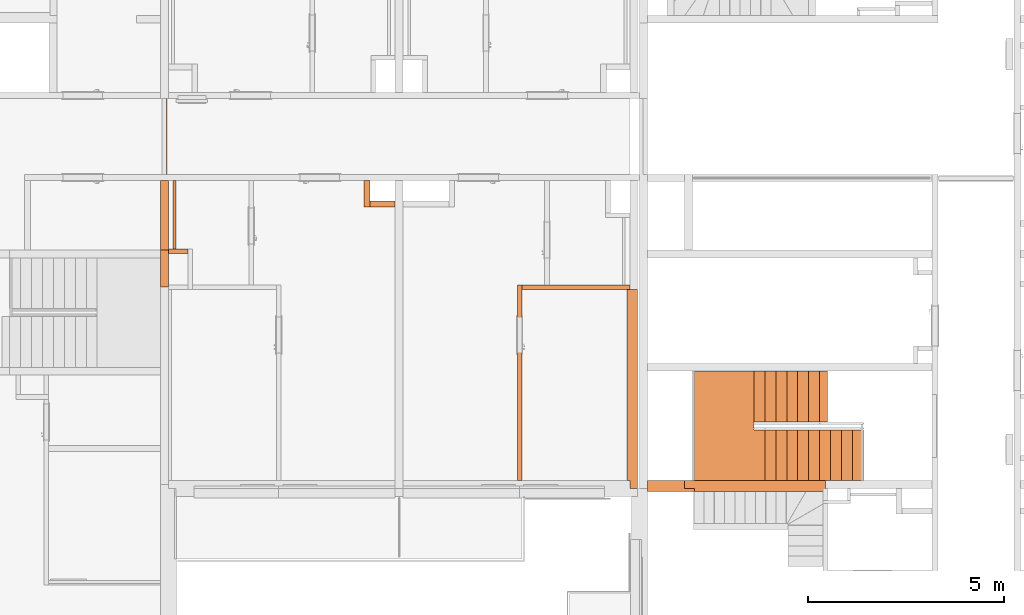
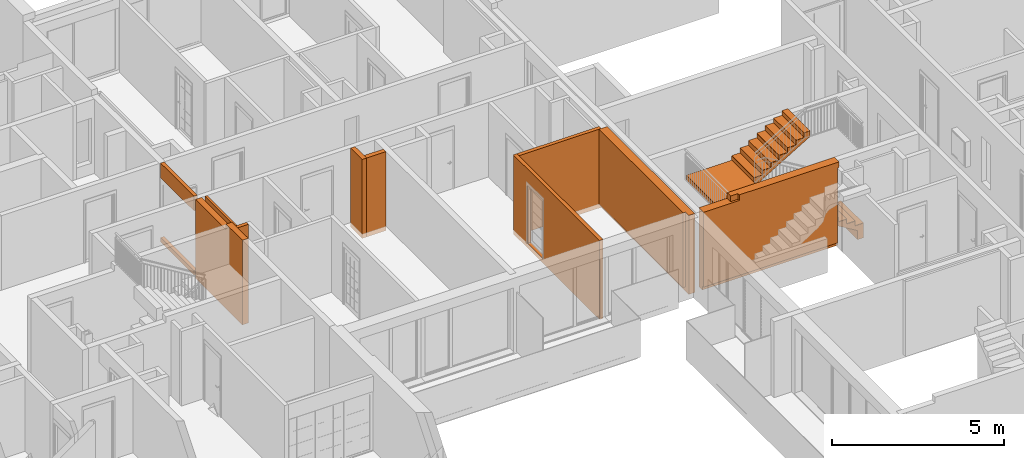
# One storey, part 54 of 61: 11 proxies, 2 openings.
"""IFC2X3 building model written with IfcOpenShell, lengths in millimetres."""

from ifc_helpers import new_model, entity, si_unit, converted_unit, derived_unit, money_unit, direction, frame, origin_with_axes, origin_2d_with_axis, place, context, subcontext, project, spatial, rectangle, extrude, faceted_brep, material, material_list, type_object, element, save


model = new_model("IFC2X3")

# Units and contexts
model_context = context("Model", 3, precision=0.01, world=origin_with_axes(), true_north=direction((0.34421633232, 0.938890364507)))
body_context = subcontext(model_context, "Body", "Model", "MODEL_VIEW")
ifc_project = project(units=[si_unit("LENGTHUNIT", "METRE", prefix="MILLI"), si_unit("AREAUNIT", "SQUARE_METRE"), si_unit("VOLUMEUNIT", "CUBIC_METRE"), converted_unit("PLANEANGLEUNIT", "DEGREE", entity("IfcPlaneAngleMeasure", 0.0174532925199), si_unit("PLANEANGLEUNIT", "RADIAN"), dimensions=[0, 0, 0, 0, 0, 0, 0]), si_unit("SOLIDANGLEUNIT", "STERADIAN"), money_unit("USD"), converted_unit("TIMEUNIT", "Year", entity("IfcTimeMeasure", 31556926.0), si_unit("TIMEUNIT", "SECOND"), dimensions=[0, 0, 1, 0, 0, 0, 0]), si_unit("MASSUNIT", "GRAM", prefix="KILO"), si_unit("THERMODYNAMICTEMPERATUREUNIT", "DEGREE_CELSIUS"), si_unit("LUMINOUSINTENSITYUNIT", "LUMEN"), si_unit("ENERGYUNIT", "JOULE", prefix="MEGA"), derived_unit("THERMALCONDUCTANCEUNIT", [(si_unit("POWERUNIT", "WATT"), 1), (si_unit("LENGTHUNIT", "METRE"), -1), (si_unit("THERMODYNAMICTEMPERATUREUNIT", "KELVIN"), -1)]), derived_unit("SPECIFICHEATCAPACITYUNIT", [(si_unit("ENERGYUNIT", "JOULE"), 1), (si_unit("MASSUNIT", "GRAM", prefix="KILO"), -1), (si_unit("THERMODYNAMICTEMPERATUREUNIT", "KELVIN"), -1)]), derived_unit("MASSDENSITYUNIT", [(si_unit("MASSUNIT", "GRAM", prefix="KILO"), 1), (si_unit("VOLUMEUNIT", "CUBIC_METRE"), -1)])], contexts=[model_context])

# Site, building, storey
site_placement = place(None, origin_with_axes())
site = spatial("IfcSite", under=ifc_project, at=site_placement, Name="USTRONIE MORSKIE", CompositionType="ELEMENT")
building_placement = place(site_placement, origin_with_axes())
building = spatial("IfcBuilding", under=site, at=building_placement, Name="Budynek", CompositionType="ELEMENT")
storey_placement = place(building_placement, frame((0.0, 0.0, 13000.0), z_axis=(0.0, 0.0, 1.0), x_axis=(1.0, 0.0, 0.0)))
storey = spatial("IfcBuildingStorey", under=building, at=storey_placement, Name="PIĘTRO 4", CompositionType="ELEMENT", Elevation=13000.0)

# Proxy
ifc_material_1 = material(Name="Bloczki silikatowe")
building_element_proxy_type_1 = type_object("IfcBuildingElementProxyType", Name="Bloczki silikatowe 120", PredefinedType="NOTDEFINED")
proxy_1_placement = place(storey_placement, frame((408317.920919, 731951.199132, -160.0), z_axis=(0.0, 0.0, 1.0), x_axis=(-1.0, 0.0, 0.0)))
element("IfcBuildingElementProxy", 1, at=proxy_1_placement, inside=storey, type_object=building_element_proxy_type_1, material=ifc_material_1, Name="SW-04", context=body_context, shape_type="Brep", body=[
    faceted_brep([(2860.01935038, 59.9999999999, 0.0), (2860.01935038, -59.9999999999, 0.0), (99.9999999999, -59.9999999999, 0.0), (99.9999999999, 59.9999999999, 0.0), (2860.01935038, 59.9999999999, 2800.0), (2860.01935038, -59.9999999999, 2800.0), (99.9999999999, -59.9999999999, 2800.0), (99.9999999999, 59.9999999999, 2800.0)], [[[0, 1, 2, 3]], [[1, 0, 4, 5]], [[1, 5, 6, 2]], [[7, 3, 2, 6]], [[4, 0, 3, 7]], [[5, 4, 7, 6]]]),
])

# Proxy, opening
proxy_2_placement = place(storey_placement, frame((405397.901569, 731951.199132, -160.0), z_axis=(0.0, 0.0, 1.0), x_axis=(0.0, -1.0, 0.0)))
proxy_2 = element("IfcBuildingElementProxy", 2, at=proxy_2_placement, inside=storey, type_object=building_element_proxy_type_1, material=ifc_material_1, Name="SW-04", context=body_context, shape_type="Brep", body=[
    faceted_brep([(4950.00009633, -60.0, 2800.0), (4950.00009633, 60.0, 2800.0), (-59.9999999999, 60.0, 2800.0), (-59.9999999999, -60.0, 2800.0), (4950.00009633, -60.0, 0.0), (4950.00009633, 60.0, 0.0), (-59.9999999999, 60.0, 0.0), (-59.9999999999, -60.0, 0.0)], [[[0, 1, 2, 3]], [[1, 0, 4, 5]], [[1, 5, 6, 2]], [[7, 3, 2, 6]], [[4, 0, 3, 7]], [[5, 4, 7, 6]]]),
])
opening_1_placement = place(proxy_2_placement, frame((1220.00038806, 0.0, 160.0), z_axis=(0.0, 0.0, 1.0), x_axis=(1.0, 0.0, 0.0)))
element("IfcOpeningElement", 3, at=opening_1_placement, cuts=proxy_2, Name="Dw.03", context=body_context, shape_type="SweptSolid", body=[
    extrude(rectangle(XDim=920.0, YDim=2070.0, at=origin_2d_with_axis()), frame((0.0, 120.0, 1035.0), z_axis=(0.0, 1.0, 0.0), x_axis=(-1.0, 0.0, 0.0)), (0.0, 0.0, -1.0), 360.0),
    extrude(rectangle(XDim=994.0, YDim=2177.0, at=origin_2d_with_axis()), frame((0.0, 60.0, 1088.5), z_axis=(0.0, 1.0, 0.0), x_axis=(-1.0, 0.0, 0.0)), (0.0, 0.0, 1.0), 120.0),
    extrude(rectangle(XDim=994.0, YDim=2177.0, at=origin_2d_with_axis()), frame((0.0, -60.0, 1088.5), z_axis=(0.0, -1.0, 0.0), x_axis=(-1.0, 0.0, 0.0)), (0.0, 0.0, 1.0), 120.0),
])

proxy_3_placement = place(storey_placement, frame((396317.920919, 734751.202821, -160.0), z_axis=(0.0, 0.0, 1.0), x_axis=(-4.57271876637e-06, 0.99999999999, 0.0)))
proxy_3 = element("IfcBuildingElementProxy", 4, at=proxy_3_placement, inside=storey, type_object=building_element_proxy_type_1, material=ifc_material_1, Name="SW-04", context=body_context, shape_type="Brep", body=[
    faceted_brep([(79.9997070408, -60.0, 0.0), (2019.99594089, -60.0, 0.0), (2019.99594089, -60.0, 2800.0), (79.9997070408, -60.0, 2800.0), (80.0002929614, 59.9999999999, 0.0), (2019.99648962, 59.9999999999, 0.0), (2019.99648962, 59.9999999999, 2800.0), (80.0002929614, 59.9999999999, 2800.0)], [[[0, 1, 2, 3]], [[4, 5, 1, 0]], [[5, 6, 2, 1]], [[3, 2, 6, 7]], [[4, 0, 3, 7]], [[7, 6, 5, 4]]]),
])
opening_2_placement = place(proxy_3_placement, frame((1049.99782397, 0.0, 160.0), z_axis=(0.0, 0.0, 1.0), x_axis=(1.0, 0.0, 0.0)))
element("IfcOpeningElement", 5, at=opening_2_placement, cuts=proxy_3, Name="Dw.6s", context=body_context, shape_type="SweptSolid", body=[
    extrude(rectangle(XDim=1940.0, YDim=2120.0, at=origin_2d_with_axis()), frame((0.0, -120.0, 1060.0), z_axis=(0.0, -1.0, 0.0), x_axis=(-1.0, 0.0, 0.0)), (0.0, 0.0, -1.0), 360.0),
])

# Proxies
proxy_4_placement = place(storey_placement, frame((396317.920919, 732811.215201, -160.0), z_axis=(0.0, 0.0, 1.0), x_axis=(0.999999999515, -3.11484020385e-05, 0.0)))
element("IfcBuildingElementProxy", 6, at=proxy_4_placement, inside=storey, type_object=building_element_proxy_type_1, material=ifc_material_1, Name="SW-04", context=body_context, shape_type="Brep", body=[
    faceted_brep([(599.979556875, -1.13686837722e-10, 2800.0), (599.972081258, 120.0, 2800.0), (99.9962622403, 120.0, 2800.0), (100.000000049, -1.13686837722e-10, 2800.0), (599.979556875, -1.13686837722e-10, 0.0), (599.972081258, 120.0, 0.0), (99.9962622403, 120.0, 0.0), (100.000000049, -1.13686837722e-10, 0.0)], [[[0, 1, 2, 3]], [[1, 0, 4, 5]], [[1, 5, 6, 2]], [[7, 3, 2, 6]], [[4, 0, 3, 7]], [[5, 4, 7, 6]]]),
])
ifc_material_2 = material(Name="Beton konstrukcyjny B25")
ifc_material_3 = material(Name="Płytki podłogowe")
ifc_material_list_1 = material_list([ifc_material_2, ifc_material_2, ifc_material_2, ifc_material_3, ifc_material_3, ifc_material_3, ifc_material_3, ifc_material_3, ifc_material_3, ifc_material_3, ifc_material_3, ifc_material_3, ifc_material_3, ifc_material_3, ifc_material_3, ifc_material_3, ifc_material_3, ifc_material_3, ifc_material_3])
building_element_proxy_type_2 = type_object("IfcBuildingElementProxyType", Name="Typ schodów", PredefinedType="NOTDEFINED")
proxy_5_placement = place(storey_placement, frame((413627.920919, 727001.199022, 0.0), z_axis=(0.0, 0.0, 1.0), x_axis=(-1.0, 0.0, 0.0)))
element("IfcBuildingElementProxy", 7, at=proxy_5_placement, inside=storey, type_object=building_element_proxy_type_2, material=ifc_material_list_1, Name="SCH2", context=body_context, shape_type="Brep", body=[
    faceted_brep([(1960.0, -1300.0, 1491.17647059), (1960.0, 0.0, 1491.17647059), (1680.0, 0.0, 1491.17647059), (1680.0, -1300.0, 1491.17647059), (1960.0, -1300.0, 1498.52941176), (1960.0, 0.0, 1498.52941176), (1960.0, 0.0, 1351.37609817), (1866.66666667, 0.0, 1295.59178444), (1773.33333333, 0.0, 1239.80747072), (1680.0, 0.0, 1184.02315699), (1586.66666667, 0.0, 1128.23884327), (1493.33333333, 0.0, 1072.45452954), (1400.0, 0.0, 1016.67021582), (1306.66666667, 0.0, 960.885902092), (1213.33333333, 0.0, 905.101588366), (1120.0, 0.0, 849.317274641), (1026.66666667, 0.0, 793.532960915), (933.333333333, 0.0, 737.74864719), (840.0, 0.0, 681.964333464), (746.666666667, 0.0, 626.180019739), (653.333333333, 0.0, 570.395706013), (560.0, 0.0, 514.611392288), (466.666666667, 0.0, 458.827078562), (373.333333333, 0.0, 403.042764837), (280.0, 0.0, 347.258451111), (186.666666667, 0.0, 291.474137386), (93.3333333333, 0.0, 235.68982366), (0.0, 0.0, 179.905509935), (-93.3333333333, 0.0, 124.121196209), (-186.666666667, 0.0, 68.3368824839), (-280.0, 0.0, 12.5525687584), (-360.0, 0.0, -35.262557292), (-360.0, 0.0, -360.0), (-560.0, 0.0, -360.0), (-560.0, 0.0, -154.800372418), (-560.0, 0.0, 152.352941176), (-280.0, 0.0, 152.352941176), (-280.0, 0.0, 319.705882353), (0.0, 0.0, 319.705882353), (0.0, 0.0, 487.058823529), (280.0, 0.0, 487.058823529), (280.0, 0.0, 654.411764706), (560.0, 0.0, 654.411764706), (560.0, 0.0, 821.764705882), (840.0, 0.0, 821.764705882), (840.0, 0.0, 989.117647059), (1120.0, 0.0, 989.117647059), (1120.0, 0.0, 1156.47058824), (1400.0, 0.0, 1156.47058824), (1400.0, 0.0, 1323.82352941), (1680.0, 0.0, 1323.82352941), (2206.20378654, 0.0, 1498.52941176), (1680.0, -1300.0, 1323.82352941), (1400.0, -1300.0, 1323.82352941), (1400.0, -1300.0, 1156.47058824), (1120.0, -1300.0, 1156.47058824), (1120.0, -1300.0, 989.117647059), (840.0, -1300.0, 989.117647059), (840.0, -1300.0, 821.764705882), (560.0, -1300.0, 821.764705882), (560.0, -1300.0, 654.411764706), (280.0, -1300.0, 654.411764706), (280.0, -1300.0, 487.058823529), (0.0, -1300.0, 487.058823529), (0.0, -1300.0, 319.705882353), (-280.0, -1300.0, 319.705882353), (-280.0, -1300.0, 152.352941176), (-560.0, -1300.0, 152.352941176), (-560.0, -1300.0, -154.800372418), (-560.0, -1300.0, -360.0), (-360.0, -1300.0, -360.0), (-360.0, -1300.0, -35.262557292), (-280.0, -1300.0, 12.5525687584), (-186.666666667, -1300.0, 68.3368824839), (-93.3333333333, -1300.0, 124.121196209), (0.0, -1300.0, 179.905509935), (93.3333333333, -1300.0, 235.68982366), (186.666666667, -1300.0, 291.474137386), (280.0, -1300.0, 347.258451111), (373.333333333, -1300.0, 403.042764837), (466.666666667, -1300.0, 458.827078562), (560.0, -1300.0, 514.611392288), (653.333333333, -1300.0, 570.395706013), (746.666666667, -1300.0, 626.180019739), (840.0, -1300.0, 681.964333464), (933.333333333, -1300.0, 737.74864719), (1026.66666667, -1300.0, 793.532960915), (1120.0, -1300.0, 849.317274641), (1213.33333333, -1300.0, 905.101588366), (1306.66666667, -1300.0, 960.885902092), (1400.0, -1300.0, 1016.67021582), (1493.33333333, -1300.0, 1072.45452954), (1586.66666667, -1300.0, 1128.23884327), (1680.0, -1300.0, 1184.02315699), (1773.33333333, -1300.0, 1239.80747072), (1866.66666667, -1300.0, 1295.59178444), (1960.0, -1300.0, 1351.37609817), (2206.20378654, -1300.0, 1498.52941176)], [[[0, 1, 2, 3]], [[1, 0, 4, 5]], [[6, 7, 8, 9, 10, 11, 12, 13, 14, 15, 16, 17, 18, 19, 20, 21, 22, 23, 24, 25, 26, 27, 28, 29, 30, 31, 32, 33, 34, 35, 36, 37, 38, 39, 40, 41, 42, 43, 44, 45, 46, 47, 48, 49, 50, 2, 1, 5, 51]], [[52, 3, 2, 50]], [[0, 3, 52, 53, 54, 55, 56, 57, 58, 59, 60, 61, 62, 63, 64, 65, 66, 67, 68, 69, 70, 71, 72, 73, 74, 75, 76, 77, 78, 79, 80, 81, 82, 83, 84, 85, 86, 87, 88, 89, 90, 91, 92, 93, 94, 95, 96, 97, 4]], [[51, 5, 4, 97]], [[96, 95, 7, 6, 51, 97]], [[95, 94, 8, 7]], [[94, 93, 9, 8]], [[93, 92, 10, 9]], [[92, 91, 11, 10]], [[91, 90, 12, 11]], [[90, 89, 13, 12]], [[89, 88, 14, 13]], [[88, 87, 15, 14]], [[87, 86, 16, 15]], [[86, 85, 17, 16]], [[85, 84, 18, 17]], [[84, 83, 19, 18]], [[83, 82, 20, 19]], [[82, 81, 21, 20]], [[81, 80, 22, 21]], [[80, 79, 23, 22]], [[79, 78, 24, 23]], [[78, 77, 25, 24]], [[77, 76, 26, 25]], [[76, 75, 27, 26]], [[75, 74, 28, 27]], [[74, 73, 29, 28]], [[73, 72, 30, 29]], [[72, 71, 31, 30]], [[32, 31, 71, 70]], [[32, 70, 69, 33]], [[69, 68, 34, 33]], [[35, 34, 68, 67]], [[36, 35, 67, 66]], [[66, 65, 37, 36]], [[38, 37, 65, 64]], [[64, 63, 39, 38]], [[40, 39, 63, 62]], [[62, 61, 41, 40]], [[42, 41, 61, 60]], [[60, 59, 43, 42]], [[44, 43, 59, 58]], [[58, 57, 45, 44]], [[46, 45, 57, 56]], [[56, 55, 47, 46]], [[48, 47, 55, 54]], [[54, 53, 49, 48]], [[50, 49, 53, 52]]]),
    faceted_brep([(2273.7961996, -1500.00000596, 1658.52941176), (2273.7961996, -2800.0, 1658.52941176), (3760.0, -2800.0, 1658.52941176), (3760.0, 0.0, 1658.52941176), (1960.0, 0.0, 1658.52941176), (1960.0, -1300.0, 1658.52941176), (2240.0, -1300.0, 1658.52941176), (2240.0, -1500.00000596, 1658.52941176), (2273.7961996, -1500.00000596, 1498.52941176), (2273.7961996, -2800.0, 1498.52941176), (3760.0, -2800.0, 1498.52941176), (3760.0, 0.0, 1498.52941176), (1960.0, 0.0, 1498.52941176), (1960.0, -1300.0, 1498.52941176), (2240.0, -1300.0, 1498.52941176), (2240.0, -1500.00000596, 1498.52941176)], [[[0, 1, 2, 3, 4, 5, 6, 7]], [[1, 0, 8, 9]], [[1, 9, 10, 2]], [[2, 10, 11, 3]], [[3, 11, 12, 4]], [[4, 12, 13, 5]], [[5, 13, 14, 6]], [[15, 7, 6, 14]], [[0, 7, 15, 8]], [[8, 15, 14, 13, 12, 11, 10, 9]]]),
    faceted_brep([(560.0, -1500.0, 2662.64705882), (560.0, -2800.0, 2662.64705882), (840.0, -2800.0, 2662.64705882), (840.0, -1500.0, 2662.64705882), (560.0, -1500.0, 2840.0), (560.0, -2800.0, 2840.0), (560.0, -2800.0, 2522.84668641), (653.333333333, -2800.0, 2467.06237268), (746.666666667, -2800.0, 2411.27805895), (840.0, -2800.0, 2355.49374523), (933.333333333, -2800.0, 2299.7094315), (1026.66666667, -2800.0, 2243.92511778), (1120.0, -2800.0, 2188.14080405), (1213.33333333, -2800.0, 2132.35649033), (1306.66666667, -2800.0, 2076.5721766), (1400.0, -2800.0, 2020.78786288), (1493.33333333, -2800.0, 1965.00354915), (1586.66666667, -2800.0, 1909.21923542), (1680.0, -2800.0, 1853.43492168), (1773.33333333, -2800.0, 1797.65060791), (1866.66666667, -2800.0, 1741.86629413), (1960.0, -2800.0, 1686.08198032), (2053.33333284, -2800.0, 1630.29766669), (2146.66666567, -2800.0, 1574.51335302), (2240.0, -2800.0, 1518.72903846), (2273.7961996, -2800.0, 1498.52941915), (2273.7961996, -2800.0, 1658.52941176), (2240.0, -2800.0, 1658.52941176), (2239.99999851, -2800.0, 1825.88235294), (1960.0, -2800.0, 1825.88235294), (1960.0, -2800.0, 1993.23529412), (1680.0, -2800.0, 1993.23529412), (1680.0, -2800.0, 2160.58823529), (1400.0, -2800.0, 2160.58823529), (1400.0, -2800.0, 2327.94117647), (1120.0, -2800.0, 2327.94117647), (1120.0, -2800.0, 2495.29411765), (840.0, -2800.0, 2495.29411765), (360.0, -2800.0, 2840.0), (360.0, -2800.0, 2640.0), (363.989535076, -2800.0, 2640.0), (840.0, -1500.0, 2495.29411765), (1120.0, -1500.0, 2495.29411765), (1120.0, -1500.0, 2327.94117647), (1400.0, -1500.0, 2327.94117647), (1400.0, -1500.0, 2160.58823529), (1680.0, -1500.0, 2160.58823529), (1680.0, -1500.0, 1993.23529412), (1960.0, -1500.0, 1993.23529412), (1960.0, -1500.0, 1825.88235294), (2239.99999851, -1500.0, 1825.88235294), (2240.0, -1500.00000596, 1658.52941176), (2273.7961996, -1500.00000596, 1658.52941176), (2273.7961996, -1500.00000596, 1498.52941915), (2240.0, -1500.00000596, 1518.72903846), (2146.66666567, -1500.0, 1574.51335302), (2053.33333284, -1500.0, 1630.29766669), (1960.0, -1500.0, 1686.08198032), (1866.66666667, -1500.0, 1741.86629413), (1773.33333333, -1500.0, 1797.65060791), (1680.0, -1500.0, 1853.43492168), (1586.66666667, -1500.0, 1909.21923542), (1493.33333333, -1500.0, 1965.00354915), (1400.0, -1500.0, 2020.78786288), (1306.66666667, -1500.0, 2076.5721766), (1213.33333333, -1500.0, 2132.35649033), (1120.0, -1500.0, 2188.14080405), (1026.66666667, -1500.0, 2243.92511778), (933.333333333, -1500.0, 2299.7094315), (840.0, -1500.0, 2355.49374523), (746.666666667, -1500.0, 2411.27805895), (653.333333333, -1500.0, 2467.06237268), (560.0, -1500.0, 2522.84668641), (363.989535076, -1500.0, 2640.0), (360.0, -1500.0, 2640.0), (360.0, -1500.0, 2840.0)], [[[0, 1, 2, 3]], [[1, 0, 4, 5]], [[6, 7, 8, 9, 10, 11, 12, 13, 14, 15, 16, 17, 18, 19, 20, 21, 22, 23, 24, 25, 26, 27, 28, 29, 30, 31, 32, 33, 34, 35, 36, 37, 2, 1, 5, 38, 39, 40]], [[41, 3, 2, 37]], [[0, 3, 41, 42, 43, 44, 45, 46, 47, 48, 49, 50, 51, 52, 53, 54, 55, 56, 57, 58, 59, 60, 61, 62, 63, 64, 65, 66, 67, 68, 69, 70, 71, 72, 73, 74, 75, 4]], [[4, 75, 38, 5]], [[72, 71, 7, 6, 40, 73]], [[8, 7, 71, 70]], [[9, 8, 70, 69]], [[10, 9, 69, 68]], [[11, 10, 68, 67]], [[12, 11, 67, 66]], [[13, 12, 66, 65]], [[14, 13, 65, 64]], [[15, 14, 64, 63]], [[16, 15, 63, 62]], [[17, 16, 62, 61]], [[18, 17, 61, 60]], [[19, 18, 60, 59]], [[20, 19, 59, 58]], [[21, 20, 58, 57]], [[22, 21, 57, 56]], [[23, 22, 56, 55]], [[55, 54, 24, 23]], [[25, 24, 54, 53]], [[25, 53, 52, 26]], [[52, 51, 27, 26]], [[28, 27, 51, 50]], [[29, 28, 50, 49]], [[49, 48, 30, 29]], [[31, 30, 48, 47]], [[47, 46, 32, 31]], [[33, 32, 46, 45]], [[45, 44, 34, 33]], [[35, 34, 44, 43]], [[43, 42, 36, 35]], [[37, 36, 42, 41]], [[75, 74, 39, 38]], [[39, 74, 73, 40]]]),
    faceted_brep([(-560.0, 0.0, 157.352941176), (-560.0, -1300.0, 157.352941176), (-560.0, -1300.0, 167.352941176), (-560.0, 0.0, 167.352941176), (-280.0, 0.0, 157.352941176), (-280.0, -1300.0, 157.352941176), (-280.0, -1300.0, 167.352941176), (-280.0, 0.0, 167.352941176)], [[[0, 1, 2, 3]], [[0, 4, 5, 1]], [[1, 5, 6, 2]], [[3, 2, 6, 7]], [[4, 0, 3, 7]], [[5, 4, 7, 6]]]),
    faceted_brep([(-280.0, 0.0, 324.705882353), (-280.0, -1300.0, 324.705882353), (-280.0, -1300.0, 334.705882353), (-280.0, 0.0, 334.705882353), (0.0, 0.0, 324.705882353), (0.0, -1300.0, 324.705882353), (0.0, -1300.0, 334.705882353), (0.0, 0.0, 334.705882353)], [[[0, 1, 2, 3]], [[0, 4, 5, 1]], [[1, 5, 6, 2]], [[3, 2, 6, 7]], [[4, 0, 3, 7]], [[5, 4, 7, 6]]]),
    faceted_brep([(0.0, 0.0, 492.058823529), (0.0, -1300.0, 492.058823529), (0.0, -1300.0, 502.058823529), (0.0, 0.0, 502.058823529), (280.0, 0.0, 492.058823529), (280.0, -1300.0, 492.058823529), (280.0, -1300.0, 502.058823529), (280.0, 0.0, 502.058823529)], [[[0, 1, 2, 3]], [[0, 4, 5, 1]], [[1, 5, 6, 2]], [[3, 2, 6, 7]], [[4, 0, 3, 7]], [[5, 4, 7, 6]]]),
    faceted_brep([(280.0, 0.0, 659.411764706), (280.0, -1300.0, 659.411764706), (280.0, -1300.0, 669.411764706), (280.0, 0.0, 669.411764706), (560.0, 0.0, 659.411764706), (560.0, -1300.0, 659.411764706), (560.0, -1300.0, 669.411764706), (560.0, 0.0, 669.411764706)], [[[0, 1, 2, 3]], [[0, 4, 5, 1]], [[1, 5, 6, 2]], [[3, 2, 6, 7]], [[4, 0, 3, 7]], [[5, 4, 7, 6]]]),
    faceted_brep([(560.0, 0.0, 826.764705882), (560.0, -1300.0, 826.764705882), (560.0, -1300.0, 836.764705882), (560.0, 0.0, 836.764705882), (840.0, 0.0, 826.764705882), (840.0, -1300.0, 826.764705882), (840.0, -1300.0, 836.764705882), (840.0, 0.0, 836.764705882)], [[[0, 1, 2, 3]], [[0, 4, 5, 1]], [[1, 5, 6, 2]], [[3, 2, 6, 7]], [[4, 0, 3, 7]], [[5, 4, 7, 6]]]),
    faceted_brep([(840.0, 0.0, 994.117647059), (840.0, -1300.0, 994.117647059), (840.0, -1300.0, 1004.11764706), (840.0, 0.0, 1004.11764706), (1120.0, 0.0, 994.117647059), (1120.0, -1300.0, 994.117647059), (1120.0, -1300.0, 1004.11764706), (1120.0, 0.0, 1004.11764706)], [[[0, 1, 2, 3]], [[0, 4, 5, 1]], [[1, 5, 6, 2]], [[3, 2, 6, 7]], [[4, 0, 3, 7]], [[5, 4, 7, 6]]]),
    faceted_brep([(1120.0, 0.0, 1161.47058824), (1120.0, -1300.0, 1161.47058824), (1120.0, -1300.0, 1171.47058824), (1120.0, 0.0, 1171.47058824), (1400.0, 0.0, 1161.47058824), (1400.0, -1300.0, 1161.47058824), (1400.0, -1300.0, 1171.47058824), (1400.0, 0.0, 1171.47058824)], [[[0, 1, 2, 3]], [[0, 4, 5, 1]], [[1, 5, 6, 2]], [[3, 2, 6, 7]], [[4, 0, 3, 7]], [[5, 4, 7, 6]]]),
    faceted_brep([(1400.0, 0.0, 1328.82352941), (1400.0, -1300.0, 1328.82352941), (1400.0, -1300.0, 1338.82352941), (1400.0, 0.0, 1338.82352941), (1680.0, 0.0, 1328.82352941), (1680.0, -1300.0, 1328.82352941), (1680.0, -1300.0, 1338.82352941), (1680.0, 0.0, 1338.82352941)], [[[0, 1, 2, 3]], [[0, 4, 5, 1]], [[1, 5, 6, 2]], [[3, 2, 6, 7]], [[4, 0, 3, 7]], [[5, 4, 7, 6]]]),
    faceted_brep([(1680.0, 0.0, 1496.17647059), (1680.0, -1300.0, 1496.17647059), (1680.0, -1300.0, 1506.17647059), (1680.0, 0.0, 1506.17647059), (1960.0, 0.0, 1496.17647059), (1960.0, -1300.0, 1496.17647059), (1960.0, -1300.0, 1506.17647059), (1960.0, 0.0, 1506.17647059)], [[[0, 1, 2, 3]], [[0, 4, 5, 1]], [[1, 5, 6, 2]], [[3, 2, 6, 7]], [[4, 0, 3, 7]], [[5, 4, 7, 6]]]),
    faceted_brep([(1960.0, 0.0, 1663.52941176), (1960.0, -1300.0, 1663.52941176), (1960.0, -1300.0, 1673.52941176), (1960.0, 0.0, 1673.52941176), (2240.0, 0.0, 1663.52941176), (3760.0, 0.0, 1663.52941176), (3760.0, -2800.0, 1663.52941176), (2240.0, -2800.0, 1663.52941176), (2240.0, -1500.0, 1663.52941176), (2240.0, -1300.0, 1663.52941176), (2240.0, -1300.0, 1673.52941176), (2240.0, -1500.0, 1673.52941176), (2240.0, -2800.0, 1673.52941176), (3760.0, -2800.0, 1673.52941176), (3760.0, 0.0, 1673.52941176), (2240.0, 0.0, 1673.52941176)], [[[0, 1, 2, 3]], [[0, 4, 5, 6, 7, 8, 9, 1]], [[1, 9, 10, 2]], [[3, 2, 10, 11, 12, 13, 14, 15]], [[4, 0, 3, 15]], [[5, 4, 15, 14]], [[6, 5, 14, 13]], [[7, 6, 13, 12]], [[8, 7, 12, 11]], [[9, 8, 11, 10]]]),
    faceted_brep([(1960.0, -2800.0, 1830.88235294), (2239.99999851, -2800.0, 1830.88235294), (2239.99999851, -2800.0, 1840.88235294), (1960.0, -2800.0, 1840.88235294), (1960.0, -1500.0, 1830.88235294), (2239.99999851, -1500.0, 1830.88235294), (2239.99999851, -1500.0, 1840.88235294), (1960.0, -1500.0, 1840.88235294)], [[[0, 1, 2, 3]], [[0, 4, 5, 1]], [[1, 5, 6, 2]], [[3, 2, 6, 7]], [[4, 0, 3, 7]], [[5, 4, 7, 6]]]),
    faceted_brep([(1960.0, -2800.0, 1998.23529412), (1960.0, -1500.0, 1998.23529412), (1960.0, -1500.0, 2008.23529412), (1960.0, -2800.0, 2008.23529412), (1680.0, -2800.0, 1998.23529412), (1680.0, -1500.0, 1998.23529412), (1680.0, -1500.0, 2008.23529412), (1680.0, -2800.0, 2008.23529412)], [[[0, 1, 2, 3]], [[0, 4, 5, 1]], [[1, 5, 6, 2]], [[3, 2, 6, 7]], [[4, 0, 3, 7]], [[5, 4, 7, 6]]]),
    faceted_brep([(1680.0, -2800.0, 2165.58823529), (1680.0, -1500.0, 2165.58823529), (1680.0, -1500.0, 2175.58823529), (1680.0, -2800.0, 2175.58823529), (1400.0, -2800.0, 2165.58823529), (1400.0, -1500.0, 2165.58823529), (1400.0, -1500.0, 2175.58823529), (1400.0, -2800.0, 2175.58823529)], [[[0, 1, 2, 3]], [[0, 4, 5, 1]], [[1, 5, 6, 2]], [[3, 2, 6, 7]], [[4, 0, 3, 7]], [[5, 4, 7, 6]]]),
    faceted_brep([(1400.0, -2800.0, 2332.94117647), (1400.0, -1500.0, 2332.94117647), (1400.0, -1500.0, 2342.94117647), (1400.0, -2800.0, 2342.94117647), (1120.0, -2800.0, 2332.94117647), (1120.0, -1500.0, 2332.94117647), (1120.0, -1500.0, 2342.94117647), (1120.0, -2800.0, 2342.94117647)], [[[0, 1, 2, 3]], [[0, 4, 5, 1]], [[1, 5, 6, 2]], [[3, 2, 6, 7]], [[4, 0, 3, 7]], [[5, 4, 7, 6]]]),
    faceted_brep([(1120.0, -2800.0, 2500.29411765), (1120.0, -1500.0, 2500.29411765), (1120.0, -1500.0, 2510.29411765), (1120.0, -2800.0, 2510.29411765), (840.0, -2800.0, 2500.29411765), (840.0, -1500.0, 2500.29411765), (840.0, -1500.0, 2510.29411765), (840.0, -2800.0, 2510.29411765)], [[[0, 1, 2, 3]], [[0, 4, 5, 1]], [[1, 5, 6, 2]], [[3, 2, 6, 7]], [[4, 0, 3, 7]], [[5, 4, 7, 6]]]),
    faceted_brep([(840.0, -2800.0, 2667.64705882), (840.0, -1500.0, 2667.64705882), (840.0, -1500.0, 2677.64705882), (840.0, -2800.0, 2677.64705882), (560.0, -2800.0, 2667.64705882), (560.0, -1500.0, 2667.64705882), (560.0, -1500.0, 2677.64705882), (560.0, -2800.0, 2677.64705882)], [[[0, 1, 2, 3]], [[0, 4, 5, 1]], [[1, 5, 6, 2]], [[3, 2, 6, 7]], [[4, 0, 3, 7]], [[5, 4, 7, 6]]]),
])
ifc_material_4 = material(Name="-Pustka powietrzna")
ifc_material_5 = material(Name="Płyta GK")
ifc_material_list_2 = material_list([ifc_material_4, ifc_material_5, ifc_material_5])
building_element_proxy_type_3 = type_object("IfcBuildingElementProxyType", Name="330-SD GK 2-warstwy 75", PredefinedType="NOTDEFINED")
proxy_6_placement = place(storey_placement, frame((396562.908566, 732811.206636, -160.0), z_axis=(0.0, 0.0, 1.0), x_axis=(0.0, 1.0, 0.0)))
element("IfcBuildingElementProxy", 8, at=proxy_6_placement, inside=storey, type_object=building_element_proxy_type_3, material=ifc_material_list_2, Name="Ściana-009", context=body_context, shape_type="Brep", body=[
    faceted_brep([(120.0001558, -25.0, 160.0), (1859.99610152, -25.0, 160.0), (1859.99610152, -25.0, 2800.0), (120.0001558, -25.0, 2800.0), (1859.99611702, 25.0, 160.0), (120.00171322, 25.0, 160.0), (1859.99611702, 25.0, 2800.0), (120.00171322, 25.0, 2800.0)], [[[0, 1, 2, 3]], [[4, 1, 0, 5]], [[1, 4, 6, 2]], [[2, 6, 7, 3]], [[5, 0, 3, 7]], [[4, 5, 7, 6]]]),
    faceted_brep([(119.999766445, -37.5, 145.0), (1859.99609764, -37.5, 145.0), (1859.99609764, -37.5, 2800.0), (119.999766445, -37.5, 2800.0), (1859.99610152, -25.0, 145.0), (120.0001558, -25.0, 145.0), (1859.99610152, -25.0, 2800.0), (120.0001558, -25.0, 2800.0)], [[[0, 1, 2, 3]], [[4, 1, 0, 5]], [[1, 4, 6, 2]], [[2, 6, 7, 3]], [[5, 0, 3, 7]], [[4, 5, 7, 6]]]),
    faceted_brep([(119.99937709, -50.0, 145.0), (1859.99609377, -50.0, 145.0), (1859.99609377, -50.0, 2800.0), (119.99937709, -50.0, 2800.0), (1859.99609764, -37.5, 145.0), (119.999766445, -37.5, 145.0), (1859.99609764, -37.5, 2800.0), (119.999766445, -37.5, 2800.0)], [[[0, 1, 2, 3]], [[4, 1, 0, 5]], [[1, 4, 6, 2]], [[2, 6, 7, 3]], [[5, 0, 3, 7]], [[4, 5, 7, 6]]]),
])
building_element_proxy_type_4 = type_object("IfcBuildingElementProxyType", Name="Bloczki silikatowe 150", PredefinedType="NOTDEFINED")
proxy_7_placement = place(storey_placement, frame((401567.920919, 734751.201178, -160.0), z_axis=(0.0, 0.0, 1.0), x_axis=(0.0, -1.0, 0.0)))
element("IfcBuildingElementProxy", 9, at=proxy_7_placement, inside=storey, type_object=building_element_proxy_type_4, material=ifc_material_1, Name="SW-03", context=body_context, shape_type="Brep", body=[
    faceted_brep([(749.999293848, 0.0, 0.0), (749.999293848, -150.0, 0.0), (79.9999380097, -150.0, 0.0), (79.9999845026, 0.0, 0.0), (749.999293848, 0.0, 2800.0), (749.999293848, -150.0, 2800.0), (79.9999380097, -150.0, 2800.0), (79.9999845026, 0.0, 2800.0)], [[[0, 1, 2, 3]], [[1, 0, 4, 5]], [[1, 5, 6, 2]], [[7, 3, 2, 6]], [[4, 0, 3, 7]], [[5, 4, 7, 6]]]),
])
proxy_8_placement = place(storey_placement, frame((401567.920919, 734151.201884, -160.0), z_axis=(0.0, 0.0, 1.0), x_axis=(1.0, 0.0, 0.0)))
element("IfcBuildingElementProxy", 10, at=proxy_8_placement, inside=storey, type_object=building_element_proxy_type_4, material=ifc_material_1, Name="SW-03", context=body_context, shape_type="Brep", body=[
    faceted_brep([(650.0, 0.0, 0.0), (650.0, -150.0, 0.0), (0.0, -150.0, 0.0), (0.0, 0.0, 0.0), (650.0, 0.0, 2800.0), (650.0, -150.0, 2800.0), (0.0, -150.0, 2800.0), (0.0, 0.0, 2800.0)], [[[0, 1, 2, 3]], [[1, 0, 4, 5]], [[1, 5, 6, 2]], [[7, 3, 2, 6]], [[4, 0, 3, 7]], [[5, 4, 7, 6]]]),
])
building_element_proxy_type_5 = type_object("IfcBuildingElementProxyType", Name="Beton konstrukcyjny B25 200", PredefinedType="NOTDEFINED")
proxy_9_placement = place(storey_placement, frame((396317.920919, 731951.199132, -160.0), z_axis=(0.0, 0.0, 1.0), x_axis=(0.0, 1.0, 0.0)))
element("IfcBuildingElementProxy", 11, at=proxy_9_placement, inside=storey, type_object=building_element_proxy_type_5, material=ifc_material_2, Name="SW-01", context=body_context, shape_type="Brep", body=[
    faceted_brep([(2720.00371943, 100.0, 0.0), (2720.00371943, 100.0, 2800.0), (2720.00365744, -100.0, 2800.0), (2720.00365744, -100.0, 0.0), (949.999834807, 100.0, 3000.0), (949.999834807, 100.0, 2800.0), (0.0, 100.0, 0.0), (0.0, 100.0, 3000.0), (949.999833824, -100.0, 2800.0), (949.999833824, -100.0, 3000.0), (0.0, -100.0, 3000.0), (0.0, -100.0, 0.0)], [[[0, 1, 2, 3]], [[4, 5, 1, 0, 6, 7]], [[5, 8, 2, 1]], [[2, 8, 9, 10, 11, 3]], [[11, 6, 0, 3]], [[5, 4, 9, 8]], [[6, 11, 10, 7]], [[10, 9, 4, 7]]]),
])
ifc_material_6 = material(Name="Izolacja akustyczna")
ifc_material_list_3 = material_list([ifc_material_2, ifc_material_6, ifc_material_5])
building_element_proxy_type_6 = type_object("IfcBuildingElementProxyType", Name="20+5 AKU 275", PredefinedType="NOTDEFINED")
proxy_10_placement = place(storey_placement, frame((408567.918279, 726901.199036, -160.0), z_axis=(0.0, 0.0, 1.0), x_axis=(1.0, 0.0, 0.0)))
element("IfcBuildingElementProxy", 12, at=proxy_10_placement, inside=storey, type_object=building_element_proxy_type_6, material=ifc_material_list_3, Name="Œciana-007", context=body_context, shape_type="Brep", body=[
    faceted_brep([(99.9990464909, 100.0, 2800.00000171), (1050.00277533, 100.0, 2800.00000171), (1050.00277533, 100.0, 3000.00000171), (4650.00263971, 100.0, 3000.0), (4650.00263971, 100.0, 0.0), (99.9990464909, 100.0, 0.0), (100.000953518, -100.0, 2800.00000121), (1050.00277533, -100.0, 2800.0), (1050.00277533, -100.0, 3000.0), (4650.00263971, -100.0, 3000.0), (4650.00263971, -100.0, 0.0), (100.000953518, -100.0, 0.0)], [[[0, 1, 2, 3, 4, 5]], [[1, 0, 6, 7]], [[8, 2, 1, 7]], [[2, 8, 9, 3]], [[3, 9, 10, 4]], [[10, 11, 5, 4]], [[6, 0, 5, 11]], [[7, 6, 11, 10, 9, 8]]]),
    faceted_brep([(4590.00263971, -150.0, 145.0), (4590.00263971, -100.0, 145.0), (4590.00263971, -100.0, 2800.0), (4590.00263971, -150.0, 2800.0), (100.000953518, -100.0, 145.0), (100.001430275, -150.0, 145.0), (100.000953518, -99.9999803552, 2800.00000171), (1100.00263971, -99.9999803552, 2800.00000171), (1300.00263971, -100.0, 2800.00000171), (1300.00263971, -100.0, 3000.0), (4650.00263971, -100.0, 3000.0), (4650.00263971, -100.0, 2800.0), (4650.00263971, -150.0, 2800.0), (4650.00263971, -150.0, 3000.0), (1300.00263971, -150.0, 3000.0), (1300.00263971, -150.0, 2800.00000171), (1100.00263971, -150.0, 2800.00000171), (100.001430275, -150.0, 2800.00000171)], [[[0, 1, 2, 3]], [[4, 1, 0, 5]], [[1, 4, 6, 7, 8, 9, 10, 11, 2]], [[3, 2, 11, 12]], [[5, 0, 3, 12, 13, 14, 15, 16, 17]], [[4, 5, 17, 6]], [[7, 6, 17, 16, 15, 8]], [[15, 14, 9, 8]], [[10, 9, 14, 13]], [[13, 12, 11, 10]]]),
    faceted_brep([(4590.00263971, -175.0, 145.0), (4590.00263971, -150.0, 145.0), (4590.00263971, -150.0, 2800.0), (4590.00263971, -175.0, 2800.0), (100.001430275, -150.0, 145.0), (100.001668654, -175.0, 145.0), (100.001430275, -150.0, 2800.00000171), (900.002639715, -150.0, 2800.00000171), (1300.00263971, -150.0, 2800.00000171), (1300.00263971, -150.0, 3000.0), (4650.00263971, -150.0, 3000.0), (4650.00263971, -150.0, 2800.0), (4650.00263971, -175.0, 2800.0), (4650.00263971, -175.0, 3000.0), (1300.00263971, -175.0, 3000.0), (1300.00263971, -175.0, 2800.00000171), (900.002639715, -175.0, 2800.00000171), (100.001668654, -175.0, 2800.00000171)], [[[0, 1, 2, 3]], [[4, 1, 0, 5]], [[1, 4, 6, 7, 8, 9, 10, 11, 2]], [[3, 2, 11, 12]], [[5, 0, 3, 12, 13, 14, 15, 16, 17]], [[4, 5, 17, 6]], [[7, 6, 17, 16, 15, 8]], [[15, 14, 9, 8]], [[10, 9, 14, 13]], [[13, 12, 11, 10]]]),
])
ifc_material_list_4 = material_list([ifc_material_5, ifc_material_6, ifc_material_2])
proxy_11_placement = place(storey_placement, frame((408317.920919, 726901.199036, -160.0), z_axis=(0.0, 0.0, 1.0), x_axis=(0.0, 1.0, 0.0)))
element("IfcBuildingElementProxy", 13, at=proxy_11_placement, inside=storey, type_object=building_element_proxy_type_6, material=ifc_material_list_4, Name="Œciana-007", context=body_context, shape_type="Brep", body=[
    faceted_brep([(4990.00009633, 175.0, 2800.0), (4990.00009633, 150.0, 2800.0), (4990.00009633, 150.0, 145.0), (4990.00009633, 175.0, 145.0), (100.0, 150.0, 2800.0), (100.0, 175.0, 2800.0), (100.0, 150.0, 145.0), (100.0, 175.0, 145.0)], [[[0, 1, 2, 3]], [[4, 1, 0, 5]], [[1, 4, 6, 2]], [[2, 6, 7, 3]], [[5, 0, 3, 7]], [[4, 5, 7, 6]]]),
    faceted_brep([(4990.00009633, 150.0, 2800.0), (4990.00009633, 100.0, 2800.0), (4990.00009633, 100.0, 145.0), (4990.00009633, 150.0, 145.0), (100.0, 99.9998216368, 2800.0), (100.0, 150.0, 2800.0), (100.0, 99.9974538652, 145.0), (100.0, 150.0, 145.0)], [[[0, 1, 2, 3]], [[4, 1, 0, 5]], [[1, 4, 6, 2]], [[2, 6, 7, 3]], [[5, 0, 3, 7]], [[4, 5, 7, 6]]]),
    faceted_brep([(4990.00009633, 100.0, 2800.0), (4990.00009633, -100.0, 2800.0), (4990.00009633, -100.0, 0.0), (4990.00009633, 100.0, 0.0), (-100.0, -100.0, 2800.0), (-100.0, 100.0, 2800.0), (-100.0, -100.0, 0.0), (-100.0, 100.0, 0.0)], [[[0, 1, 2, 3]], [[4, 1, 0, 5]], [[1, 4, 6, 2]], [[6, 7, 3, 2]], [[5, 0, 3, 7]], [[4, 5, 7, 6]]]),
])

save(model, "model.ifc")
